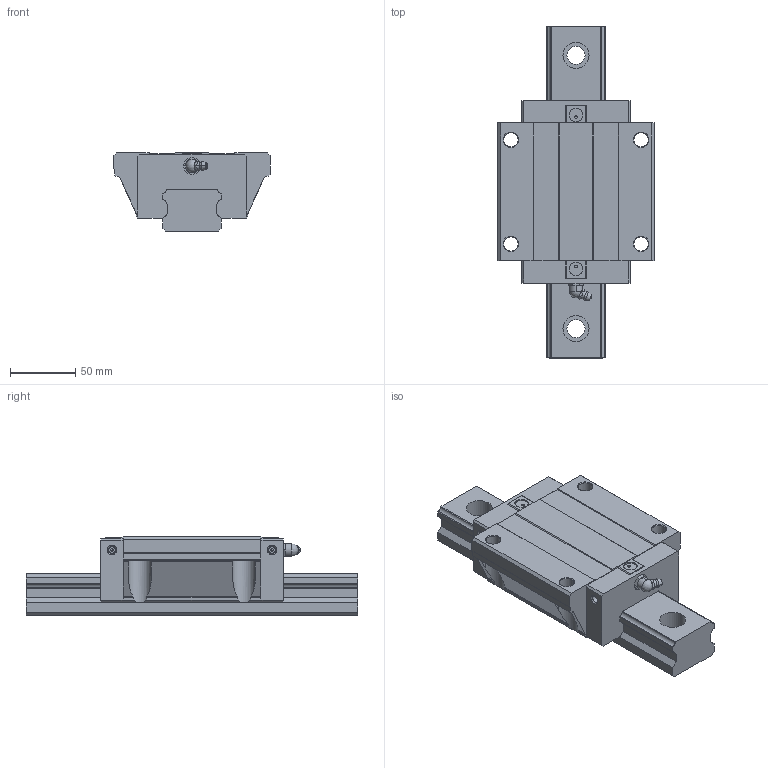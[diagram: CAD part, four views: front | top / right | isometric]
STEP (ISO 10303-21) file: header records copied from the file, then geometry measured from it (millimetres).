
FILE_DESCRIPTION(/* description */ (''),/* implementation_level */ '2;1');
FILE_NAME(/* name */ 'SME45-EA',/* time_stamp */ '2008-10-06T10:37:04+08:00',/* author */ (''),/* organization */ (''),/* preprocessor_version */ 'ST-DEVELOPER v11',/* originating_system */ 'UGS - NX 5.0',/* authorisation */ '');
FILE_SCHEMA (('AUTOMOTIVE_DESIGN { 1 0 10303 214 1 1 1 1 }'));
Length unit declared in the file: millimetre
Products named in the file (1): jillBD1Caloo
Bounding box: 120 x 255 x 60 mm (x, y, z)
Volume: 868194.9 mm3; surface area: 109195 mm2
Topology: 3 solids, 3 shells, 226 faces, 584 edges, 382 vertices
Faces by surface type: plane 138, cylinder 64, torus 10, cone 10, bspline 2, sphere 2
Full cylindrical faces by diameter (mm): 2 x6, 5.2 x4, 10.2 x4, 10.9 x4, 13 x2, 14 x3, 20 x3
Entity records: 7164 total; most frequent: CARTESIAN_POINT 1389, DIRECTION 1132, ORIENTED_EDGE 1086, EDGE_CURVE 543, AXIS2_PLACEMENT_3D 396, VERTEX_POINT 377, LINE 340, VECTOR 340
